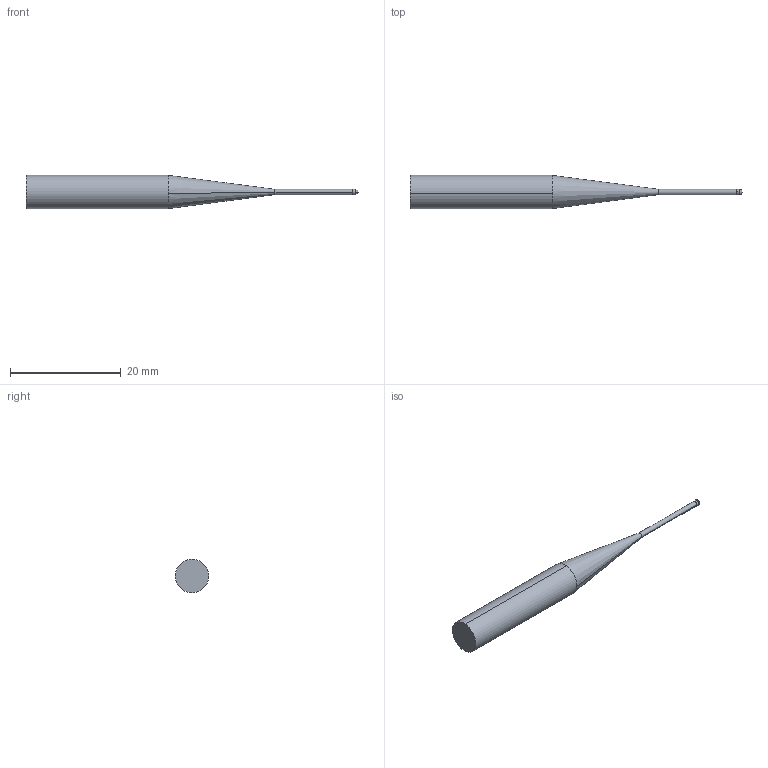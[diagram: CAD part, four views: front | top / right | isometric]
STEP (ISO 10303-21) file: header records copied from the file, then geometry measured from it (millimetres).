
FILE_DESCRIPTION (( 'STEP AP214' ), '1' );
FILE_NAME ('HM70xBNL2001.STEP', '2025-05-20T15:03:34', ( '' ), ( '' ), 'SwSTEP 2.0', 'SolidWorks 2023', '' );
FILE_SCHEMA (( 'AUTOMOTIVE_DESIGN' ));
Length unit declared in the file: millimetre
Products named in the file (3): HM70xBNL2001; HM70xBN SHANK ONLY_HM70xBNL2001; HM70xBN OD ONLY_HM70xBNL2001
Assembly tree (2 placements, depth 2):
  HM70xBNL2001
    HM70xBN OD ONLY_HM70xBNL2001
    HM70xBN SHANK ONLY_HM70xBNL2001
Bounding box: 60 x 5.98 x 5.98 mm (x, y, z)
Volume: 954.6 mm3; surface area: 772.6 mm2
Topology: 2 solids, 2 shells, 13 faces, 28 edges, 17 vertices
Faces by surface type: cylinder 6, plane 3, sphere 2, cone 2
Entity records: 438 total; most frequent: DIRECTION 80, CARTESIAN_POINT 61, ORIENTED_EDGE 52, AXIS2_PLACEMENT_3D 36, EDGE_CURVE 26, CIRCLE 18, VERTEX_POINT 17, EDGE_LOOP 13
